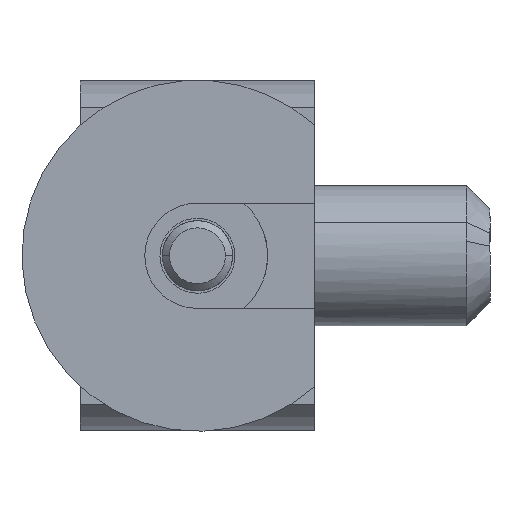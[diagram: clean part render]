
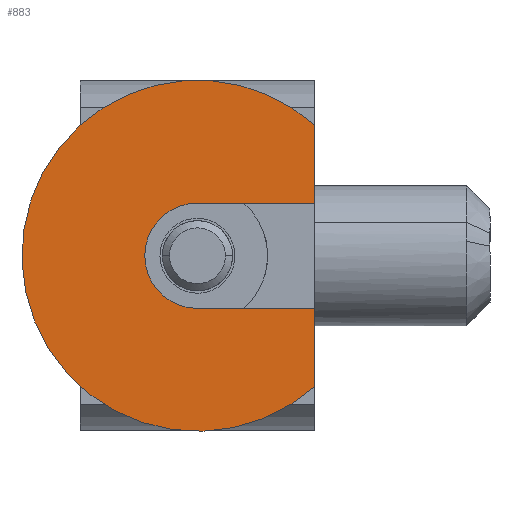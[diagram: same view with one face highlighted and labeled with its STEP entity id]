
A CAD part, left-side view. The second image highlights one B-rep face of the part: STEP entity #883.
In plain terms, the highlighted planar face has unit normal (-1, 0, 0).
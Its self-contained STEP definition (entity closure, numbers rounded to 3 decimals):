
#709=CARTESIAN_POINT('Vertex',(-13.,20.,11.18)) ;
#725=CARTESIAN_POINT('Vertex',(-13.,0.,-11.18)) ;
#728=CARTESIAN_POINT('Axis2P3D Location',(-13.,10.,0.)) ;
#745=CARTESIAN_POINT('Axis2P3D Location',(-13.,10.,0.)) ;
#749=CARTESIAN_POINT('Vertex',(-13.,0.,11.18)) ;
#828=CARTESIAN_POINT('Vertex',(-13.,0.,-4.5)) ;
#831=CARTESIAN_POINT('Line Origine',(-13.,0.,-7.84)) ;
#843=CARTESIAN_POINT('Axis2P3D Location',(-13.,10.,0.)) ;
#848=CARTESIAN_POINT('Line Origine',(-13.,5.,-4.5)) ;
#852=CARTESIAN_POINT('Vertex',(-13.,10.,-4.5)) ;
#855=CARTESIAN_POINT('Axis2P3D Location',(-13.,10.,0.)) ;
#859=CARTESIAN_POINT('Vertex',(-13.,10.,4.5)) ;
#862=CARTESIAN_POINT('Line Origine',(-13.,5.,4.5)) ;
#866=CARTESIAN_POINT('Vertex',(-13.,0.,4.5)) ;
#869=CARTESIAN_POINT('Line Origine',(-13.,0.,7.84)) ;
#729=DIRECTION('Axis2P3D Direction',(1.,0.,0.)) ;
#746=DIRECTION('Axis2P3D Direction',(1.,0.,0.)) ;
#832=DIRECTION('Vector Direction',(0.,0.,-1.)) ;
#844=DIRECTION('Axis2P3D Direction',(1.,0.,0.)) ;
#845=DIRECTION('Axis2P3D XDirection',(0.,0.,-1.)) ;
#849=DIRECTION('Vector Direction',(0.,-1.,0.)) ;
#856=DIRECTION('Axis2P3D Direction',(1.,0.,0.)) ;
#863=DIRECTION('Vector Direction',(0.,1.,0.)) ;
#870=DIRECTION('Vector Direction',(0.,0.,-1.)) ;
#730=AXIS2_PLACEMENT_3D('Circle Axis2P3D',#728,#729,$) ;
#747=AXIS2_PLACEMENT_3D('Circle Axis2P3D',#745,#746,$) ;
#846=AXIS2_PLACEMENT_3D('Plane Axis2P3D',#843,#844,#845) ;
#857=AXIS2_PLACEMENT_3D('Circle Axis2P3D',#855,#856,$) ;
#875=ORIENTED_EDGE('',*,*,#835,.F.) ;
#876=ORIENTED_EDGE('',*,*,#854,.F.) ;
#877=ORIENTED_EDGE('',*,*,#861,.F.) ;
#878=ORIENTED_EDGE('',*,*,#868,.F.) ;
#879=ORIENTED_EDGE('',*,*,#873,.F.) ;
#880=ORIENTED_EDGE('',*,*,#751,.F.) ;
#881=ORIENTED_EDGE('',*,*,#732,.F.) ;
#833=VECTOR('Line Direction',#832,1.) ;
#850=VECTOR('Line Direction',#849,1.) ;
#864=VECTOR('Line Direction',#863,1.) ;
#871=VECTOR('Line Direction',#870,1.) ;
#883=ADVANCED_FACE('Mechanus--simsa--D30 tl.3 (30-200).1\\PartBody',(#882),#847,.F.) ;
#731=CIRCLE('generated circle',#730,15.) ;
#748=CIRCLE('generated circle',#747,15.) ;
#858=CIRCLE('generated circle',#857,4.5) ;
#732=EDGE_CURVE('',#726,#710,#731,.T.) ;
#751=EDGE_CURVE('',#710,#750,#748,.T.) ;
#835=EDGE_CURVE('',#829,#726,#834,.T.) ;
#854=EDGE_CURVE('',#853,#829,#851,.T.) ;
#861=EDGE_CURVE('',#860,#853,#858,.F.) ;
#868=EDGE_CURVE('',#867,#860,#865,.T.) ;
#873=EDGE_CURVE('',#750,#867,#872,.T.) ;
#874=EDGE_LOOP('',(#875,#876,#877,#878,#879,#880,#881)) ;
#882=FACE_OUTER_BOUND('',#874,.T.) ;
#834=LINE('Line',#831,#833) ;
#851=LINE('Line',#848,#850) ;
#865=LINE('Line',#862,#864) ;
#872=LINE('Line',#869,#871) ;
#847=PLANE('Plane',#846) ;
#710=VERTEX_POINT('',#709) ;
#726=VERTEX_POINT('',#725) ;
#750=VERTEX_POINT('',#749) ;
#829=VERTEX_POINT('',#828) ;
#853=VERTEX_POINT('',#852) ;
#860=VERTEX_POINT('',#859) ;
#867=VERTEX_POINT('',#866) ;
